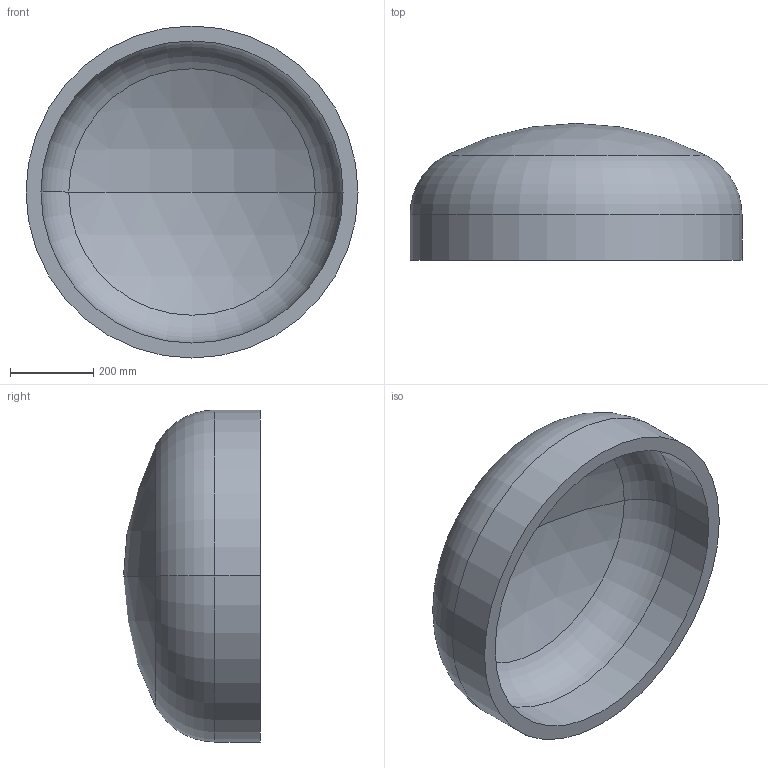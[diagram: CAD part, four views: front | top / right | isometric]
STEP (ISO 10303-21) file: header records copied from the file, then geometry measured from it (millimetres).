
FILE_DESCRIPTION (( 'STEP AP203' ), '1' );
FILE_NAME ('DIN 28013 Korbbogenform_-_Boden DIN 28013 - 800 x 110 - I - s=36.step', '2016-07-01T08:16:00', ( '' ), ( '' ), 'SwSTEP 2.0', 'SolidWorks 2013', '' );
FILE_SCHEMA (( 'CONFIG_CONTROL_DESIGN' ));
Length unit declared in the file: millimetre
Products named in the file (1): DIN 28013 Korbbogenform_-_Boden DIN 28013 - 800 x 110 - I - s=36
Bounding box: 800 x 329.82 x 800 mm (x, y, z)
Volume: 33223464 mm3; surface area: 1934868.3 mm2
Topology: 1 solids, 1 shells, 13 faces, 24 edges, 14 vertices
Faces by surface type: torus 4, cylinder 4, sphere 4, plane 1
Entity records: 407 total; most frequent: DIRECTION 72, CARTESIAN_POINT 52, ORIENTED_EDGE 48, AXIS2_PLACEMENT_3D 34, EDGE_CURVE 24, CIRCLE 20, VERTEX_POINT 14, EDGE_LOOP 14
